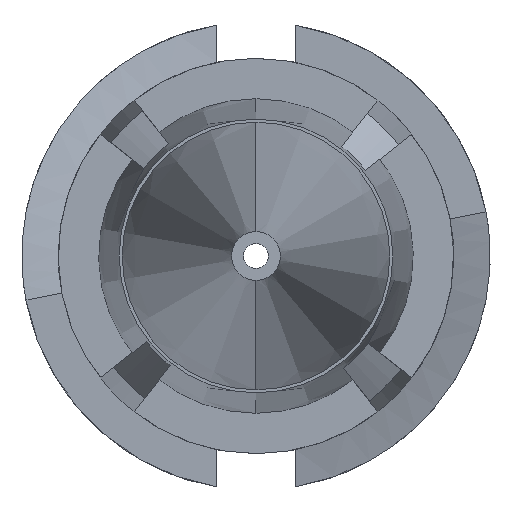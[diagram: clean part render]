
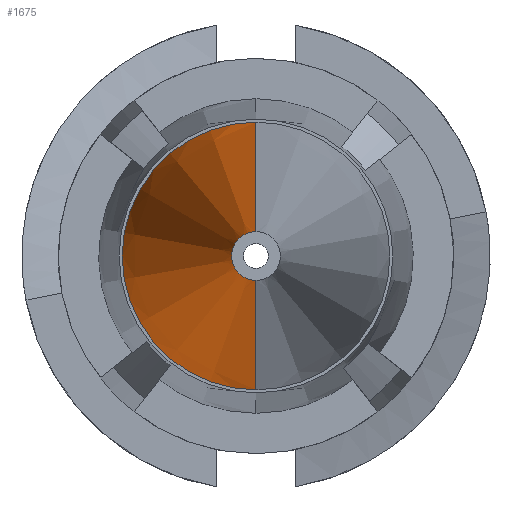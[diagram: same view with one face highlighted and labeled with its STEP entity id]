
A CAD part, left-side view. The second image highlights one B-rep face of the part: STEP entity #1675.
In plain terms, the highlighted conical face has half-angle 5.742 degrees and reference radius 2.2 mm.
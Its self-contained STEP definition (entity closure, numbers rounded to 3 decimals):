
#39 = CIRCLE ( 'NONE', #1320, 0.4 ) ;
#90 = EDGE_CURVE ( 'NONE', #407, #1577, #403, .T. ) ;
#207 = ORIENTED_EDGE ( 'NONE', *, *, #402, .F. ) ;
#311 = DIRECTION ( 'NONE',  ( 0., 0., -1. ) ) ;
#327 = CARTESIAN_POINT ( 'NONE',  ( -14., 0., 2.2 ) ) ;
#349 = ORIENTED_EDGE ( 'NONE', *, *, #90, .T. ) ;
#364 = DIRECTION ( 'NONE',  ( 1., 0., 0. ) ) ;
#402 = EDGE_CURVE ( 'NONE', #483, #1577, #1620, .T. ) ;
#403 = LINE ( 'NONE', #990, #1358 ) ;
#407 = VERTEX_POINT ( 'NONE', #1684 ) ;
#483 = VERTEX_POINT ( 'NONE', #1263 ) ;
#514 = DIRECTION ( 'NONE',  ( 0.995, 0., -0.1 ) ) ;
#715 = VECTOR ( 'NONE', #514, 1000. ) ;
#719 = EDGE_LOOP ( 'NONE', ( #988, #349, #207, #992 ) ) ;
#803 = LINE ( 'NONE', #1809, #715 ) ;
#828 = VERTEX_POINT ( 'NONE', #1576 ) ;
#833 = CARTESIAN_POINT ( 'NONE',  ( -14., 0., 0. ) ) ;
#859 = AXIS2_PLACEMENT_3D ( 'NONE', #1194, #364, #1339 ) ;
#988 = ORIENTED_EDGE ( 'NONE', *, *, #1312, .T. ) ;
#990 = CARTESIAN_POINT ( 'NONE',  ( -14., 0., 2.2 ) ) ;
#992 = ORIENTED_EDGE ( 'NONE', *, *, #1378, .F. ) ;
#1075 = DIRECTION ( 'NONE',  ( 1., 0., 0. ) ) ;
#1128 = CONICAL_SURFACE ( 'NONE', #859, 2.2, 0.1 ) ;
#1178 = DIRECTION ( 'NONE',  ( 1., 0., 0. ) ) ;
#1194 = CARTESIAN_POINT ( 'NONE',  ( -14., 0., 0. ) ) ;
#1263 = CARTESIAN_POINT ( 'NONE',  ( -14., 0., -2.2 ) ) ;
#1312 = EDGE_CURVE ( 'NONE', #828, #407, #39, .T. ) ;
#1320 = AXIS2_PLACEMENT_3D ( 'NONE', #1763, #1178, #311 ) ;
#1339 = DIRECTION ( 'NONE',  ( 0., 0., -1. ) ) ;
#1340 = AXIS2_PLACEMENT_3D ( 'NONE', #833, #1075, #1807 ) ;
#1356 = FACE_OUTER_BOUND ( 'NONE', #719, .T. ) ;
#1358 = VECTOR ( 'NONE', #1400, 1000. ) ;
#1378 = EDGE_CURVE ( 'NONE', #828, #483, #803, .T. ) ;
#1400 = DIRECTION ( 'NONE',  ( 0.995, 0., 0.1 ) ) ;
#1576 = CARTESIAN_POINT ( 'NONE',  ( -31.9, 0., -0.4 ) ) ;
#1577 = VERTEX_POINT ( 'NONE', #327 ) ;
#1620 = CIRCLE ( 'NONE', #1340, 2.2 ) ;
#1675 = ADVANCED_FACE ( 'NONE', ( #1356 ), #1128, .T. ) ;
#1684 = CARTESIAN_POINT ( 'NONE',  ( -31.9, 0., 0.4 ) ) ;
#1763 = CARTESIAN_POINT ( 'NONE',  ( -31.9, 0., 0. ) ) ;
#1807 = DIRECTION ( 'NONE',  ( 0., 0., -1. ) ) ;
#1809 = CARTESIAN_POINT ( 'NONE',  ( -14., 0., -2.2 ) ) ;
